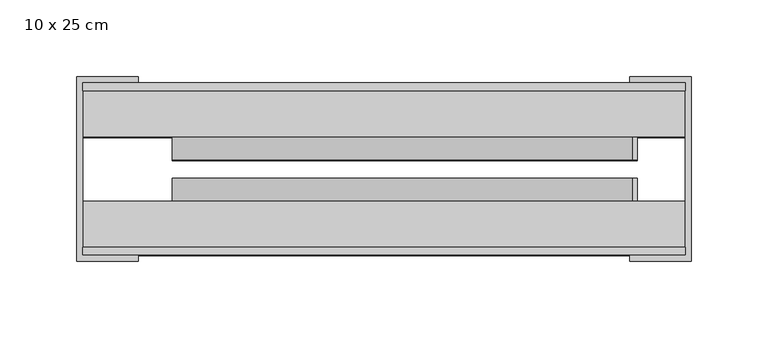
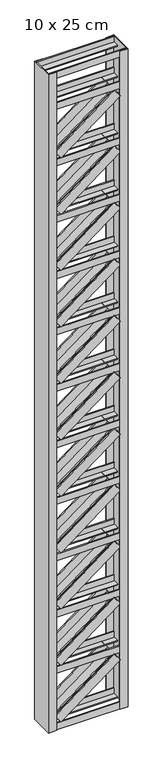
"""IFC4 building model written with IfcOpenShell, lengths in millimetres: beam geometry, AÇO - PILAR STEEL FRAME : 10 x 25 cm."""

from ifc_helpers import new_model, si_unit, frame, origin, origin_with_axes, place, context, project, spatial, polyline, outline, extrude, source, transform, mapped, element, save


def beam_10_x_25_cm_9de69e2e(model_context):
    return source(origin(), model_context, "Body", "SweptSolid", [
        extrude(outline(polyline([(-56.0, 25.0), (-6.0, 25.0), (-6.0, 20.0), (-51.0, 20.0), (-51.0, -25.0), (-56.0, -25.0), (-56.0, 25.0)])), frame((-150.0, 0.0, 3055.0), z_axis=(0.8000000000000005, 0.0, 0.5999999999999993), x_axis=(0.0, -1.0, 0.0)), (0.0, 0.0, 1.0), 375.0),
        extrude(outline(polyline([(56.0, 25.0), (56.0, -25.0), (51.0, -25.0), (51.0, 20.0), (6.0, 20.0), (6.0, 25.0), (56.0, 25.0)])), frame((-150.0, 0.0, 3055.0), z_axis=(0.8000000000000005, 0.0, 0.5999999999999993), x_axis=(0.0, -1.0, 0.0)), (0.0, 0.0, 1.0), 375.0),
        extrude(outline(polyline([(-56.0, 25.0), (-6.0, 25.0), (-6.0, 20.0), (-51.0, 20.0), (-51.0, -25.0), (-56.0, -25.0), (-56.0, 25.0)])), frame((-150.0, 0.0, 2755.0), z_axis=(0.8000000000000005, 0.0, 0.5999999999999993), x_axis=(0.0, -1.0, 0.0)), (0.0, 0.0, 1.0), 375.0),
        extrude(outline(polyline([(56.0, 25.0), (56.0, -25.0), (51.0, -25.0), (51.0, 20.0), (6.0, 20.0), (6.0, 25.0), (56.0, 25.0)])), frame((-150.0, 0.0, 2755.0), z_axis=(0.8000000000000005, 0.0, 0.5999999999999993), x_axis=(0.0, -1.0, 0.0)), (0.0, 0.0, 1.0), 375.0),
        extrude(outline(polyline([(-56.0, 25.0), (-6.0, 25.0), (-6.0, 20.0), (-51.0, 20.0), (-51.0, -25.0), (-56.0, -25.0), (-56.0, 25.0)])), frame((-150.0, 0.0, 2455.0), z_axis=(0.8000000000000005, 0.0, 0.5999999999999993), x_axis=(0.0, -1.0, 0.0)), (0.0, 0.0, 1.0), 375.0),
        extrude(outline(polyline([(56.0, 25.0), (56.0, -25.0), (51.0, -25.0), (51.0, 20.0), (6.0, 20.0), (6.0, 25.0), (56.0, 25.0)])), frame((-150.0, 0.0, 2455.0), z_axis=(0.8000000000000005, 0.0, 0.5999999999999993), x_axis=(0.0, -1.0, 0.0)), (0.0, 0.0, 1.0), 375.0),
        extrude(outline(polyline([(-56.0, 25.0), (-6.0, 25.0), (-6.0, 20.0), (-51.0, 20.0), (-51.0, -25.0), (-56.0, -25.0), (-56.0, 25.0)])), frame((-150.0, 0.0, 2155.0), z_axis=(0.8000000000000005, 0.0, 0.5999999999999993), x_axis=(0.0, -1.0, 0.0)), (0.0, 0.0, 1.0), 375.0),
        extrude(outline(polyline([(56.0, 25.0), (56.0, -25.0), (51.0, -25.0), (51.0, 20.0), (6.0, 20.0), (6.0, 25.0), (56.0, 25.0)])), frame((-150.0, 0.0, 2155.0), z_axis=(0.8000000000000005, 0.0, 0.5999999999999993), x_axis=(0.0, -1.0, 0.0)), (0.0, 0.0, 1.0), 375.0),
        extrude(outline(polyline([(-56.0, 25.0), (-6.0, 25.0), (-6.0, 20.0), (-51.0, 20.0), (-51.0, -25.0), (-56.0, -25.0), (-56.0, 25.0)])), frame((-150.0, 0.0, 1855.0), z_axis=(0.8000000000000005, 0.0, 0.5999999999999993), x_axis=(0.0, -1.0, 0.0)), (0.0, 0.0, 1.0), 375.0),
        extrude(outline(polyline([(56.0, 25.0), (56.0, -25.0), (51.0, -25.0), (51.0, 20.0), (6.0, 20.0), (6.0, 25.0), (56.0, 25.0)])), frame((-150.0, 0.0, 1855.0), z_axis=(0.8000000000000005, 0.0, 0.5999999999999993), x_axis=(0.0, -1.0, 0.0)), (0.0, 0.0, 1.0), 375.0),
        extrude(outline(polyline([(-56.0, 25.0), (-6.0, 25.0), (-6.0, 20.0), (-51.0, 20.0), (-51.0, -25.0), (-56.0, -25.0), (-56.0, 25.0)])), frame((-150.0, 0.0, 1555.0), z_axis=(0.8000000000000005, 0.0, 0.5999999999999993), x_axis=(0.0, -1.0, 0.0)), (0.0, 0.0, 1.0), 375.0),
        extrude(outline(polyline([(56.0, 25.0), (56.0, -25.0), (51.0, -25.0), (51.0, 20.0), (6.0, 20.0), (6.0, 25.0), (56.0, 25.0)])), frame((-150.0, 0.0, 1555.0), z_axis=(0.8000000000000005, 0.0, 0.5999999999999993), x_axis=(0.0, -1.0, 0.0)), (0.0, 0.0, 1.0), 375.0),
        extrude(outline(polyline([(-56.0, 25.0), (-6.0, 25.0), (-6.0, 20.0), (-51.0, 20.0), (-51.0, -25.0), (-56.0, -25.0), (-56.0, 25.0)])), frame((-150.0, 0.0, 1255.0), z_axis=(0.8000000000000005, 0.0, 0.5999999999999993), x_axis=(0.0, -1.0, 0.0)), (0.0, 0.0, 1.0), 375.0),
        extrude(outline(polyline([(56.0, 25.0), (56.0, -25.0), (51.0, -25.0), (51.0, 20.0), (6.0, 20.0), (6.0, 25.0), (56.0, 25.0)])), frame((-150.0, 0.0, 1255.0), z_axis=(0.8000000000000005, 0.0, 0.5999999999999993), x_axis=(0.0, -1.0, 0.0)), (0.0, 0.0, 1.0), 375.0),
        extrude(outline(polyline([(-56.0, 25.0), (-6.0, 25.0), (-6.0, 20.0), (-51.0, 20.0), (-51.0, -25.0), (-56.0, -25.0), (-56.0, 25.0)])), frame((-150.0, 0.0, 955.0), z_axis=(0.8000000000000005, 0.0, 0.5999999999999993), x_axis=(0.0, -1.0, 0.0)), (0.0, 0.0, 1.0), 375.0),
        extrude(outline(polyline([(56.0, 25.0), (56.0, -25.0), (51.0, -25.0), (51.0, 20.0), (6.0, 20.0), (6.0, 25.0), (56.0, 25.0)])), frame((-150.0, 0.0, 955.0), z_axis=(0.8000000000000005, 0.0, 0.5999999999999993), x_axis=(0.0, -1.0, 0.0)), (0.0, 0.0, 1.0), 375.0),
        extrude(outline(polyline([(-56.0, 25.0), (-6.0, 25.0), (-6.0, 20.0), (-51.0, 20.0), (-51.0, -25.0), (-56.0, -25.0), (-56.0, 25.0)])), frame((-150.0, 0.0, 655.0), z_axis=(0.8000000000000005, 0.0, 0.5999999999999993), x_axis=(0.0, -1.0, 0.0)), (0.0, 0.0, 1.0), 375.0),
        extrude(outline(polyline([(56.0, 25.0), (56.0, -25.0), (51.0, -25.0), (51.0, 20.0), (6.0, 20.0), (6.0, 25.0), (56.0, 25.0)])), frame((-150.0, 0.0, 655.0), z_axis=(0.8000000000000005, 0.0, 0.5999999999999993), x_axis=(0.0, -1.0, 0.0)), (0.0, 0.0, 1.0), 375.0),
        extrude(outline(polyline([(-56.0, 25.0), (-6.0, 25.0), (-6.0, 20.0), (-51.0, 20.0), (-51.0, -25.0), (-56.0, -25.0), (-56.0, 25.0)])), frame((-150.0, 0.0, 355.0), z_axis=(0.8000000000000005, 0.0, 0.5999999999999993), x_axis=(0.0, -1.0, 0.0)), (0.0, 0.0, 1.0), 375.0),
        extrude(outline(polyline([(56.0, 25.0), (56.0, -25.0), (51.0, -25.0), (51.0, 20.0), (6.0, 20.0), (6.0, 25.0), (56.0, 25.0)])), frame((-150.0, 0.0, 355.0), z_axis=(0.8000000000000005, 0.0, 0.5999999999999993), x_axis=(0.0, -1.0, 0.0)), (0.0, 0.0, 1.0), 375.0),
        extrude(outline(polyline([(-56.0, 25.0), (-6.0, 25.0), (-6.0, 20.0), (-51.0, 20.0), (-51.0, -25.0), (-56.0, -25.0), (-56.0, 25.0)])), frame((-150.0, 0.0, 55.0), z_axis=(0.8000000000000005, 0.0, 0.5999999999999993), x_axis=(0.0, -1.0, 0.0)), (0.0, 0.0, 1.0), 375.0),
        extrude(outline(polyline([(56.0, 25.0), (56.0, -25.0), (51.0, -25.0), (51.0, 20.0), (6.0, 20.0), (6.0, 25.0), (56.0, 25.0)])), frame((-150.0, 0.0, 55.0), z_axis=(0.8000000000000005, 0.0, 0.5999999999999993), x_axis=(0.0, -1.0, 0.0)), (0.0, 0.0, 1.0), 375.0),
        extrude(outline(polyline([(56.0, 3300.0), (21.0, 3300.0), (21.0, 3305.0), (51.0, 3305.0), (51.0, 3335.0), (56.0, 3335.0), (56.0, 3300.0)])), frame((-196.0, 0.0, 0.0), z_axis=(1.0, 0.0, 0.0), x_axis=(0.0, 1.0, 0.0)), (0.0, 0.0, 1.0), 392.0),
        extrude(outline(polyline([(-56.0, 3300.0), (-56.0, 3335.0), (-51.0, 3335.0), (-51.0, 3305.0), (-21.0, 3305.0), (-21.0, 3300.0), (-56.0, 3300.0)])), frame((-196.0, 0.0, 0.0), z_axis=(1.0, 0.0, 0.0), x_axis=(0.0, 1.0, 0.0)), (0.0, 0.0, 1.0), 392.0),
        extrude(outline(polyline([(56.0, 3000.0), (21.0, 3000.0), (21.0, 3005.0), (51.0, 3005.0), (51.0, 3035.0), (56.0, 3035.0), (56.0, 3000.0)])), frame((-196.0, 0.0, 0.0), z_axis=(1.0, 0.0, 0.0), x_axis=(0.0, 1.0, 0.0)), (0.0, 0.0, 1.0), 392.0),
        extrude(outline(polyline([(-56.0, 3000.0), (-56.0, 3035.0), (-51.0, 3035.0), (-51.0, 3005.0), (-21.0, 3005.0), (-21.0, 3000.0), (-56.0, 3000.0)])), frame((-196.0, 0.0, 0.0), z_axis=(1.0, 0.0, 0.0), x_axis=(0.0, 1.0, 0.0)), (0.0, 0.0, 1.0), 392.0),
        extrude(outline(polyline([(56.0, 2700.0), (21.0, 2700.0), (21.0, 2705.0), (51.0, 2705.0), (51.0, 2735.0), (56.0, 2735.0), (56.0, 2700.0)])), frame((-196.0, 0.0, 0.0), z_axis=(1.0, 0.0, 0.0), x_axis=(0.0, 1.0, 0.0)), (0.0, 0.0, 1.0), 392.0),
        extrude(outline(polyline([(-56.0, 2700.0), (-56.0, 2735.0), (-51.0, 2735.0), (-51.0, 2705.0), (-21.0, 2705.0), (-21.0, 2700.0), (-56.0, 2700.0)])), frame((-196.0, 0.0, 0.0), z_axis=(1.0, 0.0, 0.0), x_axis=(0.0, 1.0, 0.0)), (0.0, 0.0, 1.0), 392.0),
        extrude(outline(polyline([(56.0, 2400.0), (21.0, 2400.0), (21.0, 2405.0), (51.0, 2405.0), (51.0, 2435.0), (56.0, 2435.0), (56.0, 2400.0)])), frame((-196.0, 0.0, 0.0), z_axis=(1.0, 0.0, 0.0), x_axis=(0.0, 1.0, 0.0)), (0.0, 0.0, 1.0), 392.0),
        extrude(outline(polyline([(-56.0, 2400.0), (-56.0, 2435.0), (-51.0, 2435.0), (-51.0, 2405.0), (-21.0, 2405.0), (-21.0, 2400.0), (-56.0, 2400.0)])), frame((-196.0, 0.0, 0.0), z_axis=(1.0, 0.0, 0.0), x_axis=(0.0, 1.0, 0.0)), (0.0, 0.0, 1.0), 392.0),
        extrude(outline(polyline([(56.0, 2100.0), (21.0, 2100.0), (21.0, 2105.0), (51.0, 2105.0), (51.0, 2135.0), (56.0, 2135.0), (56.0, 2100.0)])), frame((-196.0, 0.0, 0.0), z_axis=(1.0, 0.0, 0.0), x_axis=(0.0, 1.0, 0.0)), (0.0, 0.0, 1.0), 392.0),
        extrude(outline(polyline([(-56.0, 2100.0), (-56.0, 2135.0), (-51.0, 2135.0), (-51.0, 2105.0), (-21.0, 2105.0), (-21.0, 2100.0), (-56.0, 2100.0)])), frame((-196.0, 0.0, 0.0), z_axis=(1.0, 0.0, 0.0), x_axis=(0.0, 1.0, 0.0)), (0.0, 0.0, 1.0), 392.0),
        extrude(outline(polyline([(56.0, 1800.0), (21.0, 1800.0), (21.0, 1805.0), (51.0, 1805.0), (51.0, 1835.0), (56.0, 1835.0), (56.0, 1800.0)])), frame((-196.0, 0.0, 0.0), z_axis=(1.0, 0.0, 0.0), x_axis=(0.0, 1.0, 0.0)), (0.0, 0.0, 1.0), 392.0),
        extrude(outline(polyline([(-56.0, 1800.0), (-56.0, 1835.0), (-51.0, 1835.0), (-51.0, 1805.0), (-21.0, 1805.0), (-21.0, 1800.0), (-56.0, 1800.0)])), frame((-196.0, 0.0, 0.0), z_axis=(1.0, 0.0, 0.0), x_axis=(0.0, 1.0, 0.0)), (0.0, 0.0, 1.0), 392.0),
        extrude(outline(polyline([(56.0, 1500.0), (21.0, 1500.0), (21.0, 1505.0), (51.0, 1505.0), (51.0, 1535.0), (56.0, 1535.0), (56.0, 1500.0)])), frame((-196.0, 0.0, 0.0), z_axis=(1.0, 0.0, 0.0), x_axis=(0.0, 1.0, 0.0)), (0.0, 0.0, 1.0), 392.0),
        extrude(outline(polyline([(-56.0, 1500.0), (-56.0, 1535.0), (-51.0, 1535.0), (-51.0, 1505.0), (-21.0, 1505.0), (-21.0, 1500.0), (-56.0, 1500.0)])), frame((-196.0, 0.0, 0.0), z_axis=(1.0, 0.0, 0.0), x_axis=(0.0, 1.0, 0.0)), (0.0, 0.0, 1.0), 392.0),
        extrude(outline(polyline([(56.0, 1200.0), (21.0, 1200.0), (21.0, 1205.0), (51.0, 1205.0), (51.0, 1235.0), (56.0, 1235.0), (56.0, 1200.0)])), frame((-196.0, 0.0, 0.0), z_axis=(1.0, 0.0, 0.0), x_axis=(0.0, 1.0, 0.0)), (0.0, 0.0, 1.0), 392.0),
        extrude(outline(polyline([(-56.0, 1200.0), (-56.0, 1235.0), (-51.0, 1235.0), (-51.0, 1205.0), (-21.0, 1205.0), (-21.0, 1200.0), (-56.0, 1200.0)])), frame((-196.0, 0.0, 0.0), z_axis=(1.0, 0.0, 0.0), x_axis=(0.0, 1.0, 0.0)), (0.0, 0.0, 1.0), 392.0),
        extrude(outline(polyline([(56.0, 900.0), (21.0, 900.0), (21.0, 905.0), (51.0, 905.0), (51.0, 935.0), (56.0, 935.0), (56.0, 900.0)])), frame((-196.0, 0.0, 0.0), z_axis=(1.0, 0.0, 0.0), x_axis=(0.0, 1.0, 0.0)), (0.0, 0.0, 1.0), 392.0),
        extrude(outline(polyline([(-56.0, 900.0), (-56.0, 935.0), (-51.0, 935.0), (-51.0, 905.0), (-21.0, 905.0), (-21.0, 900.0), (-56.0, 900.0)])), frame((-196.0, 0.0, 0.0), z_axis=(1.0, 0.0, 0.0), x_axis=(0.0, 1.0, 0.0)), (0.0, 0.0, 1.0), 392.0),
        extrude(outline(polyline([(56.0, 600.0), (21.0, 600.0), (21.0, 605.0), (51.0, 605.0), (51.0, 635.0), (56.0, 635.0), (56.0, 600.0)])), frame((-196.0, 0.0, 0.0), z_axis=(1.0, 0.0, 0.0), x_axis=(0.0, 1.0, 0.0)), (0.0, 0.0, 1.0), 392.0),
        extrude(outline(polyline([(-56.0, 600.0), (-56.0, 635.0), (-51.0, 635.0), (-51.0, 605.0), (-21.0, 605.0), (-21.0, 600.0), (-56.0, 600.0)])), frame((-196.0, 0.0, 0.0), z_axis=(1.0, 0.0, 0.0), x_axis=(0.0, 1.0, 0.0)), (0.0, 0.0, 1.0), 392.0),
        extrude(outline(polyline([(56.0, 300.0), (21.0, 300.0), (21.0, 305.0), (51.0, 305.0), (51.0, 335.0), (56.0, 335.0), (56.0, 300.0)])), frame((-196.0, 0.0, 0.0), z_axis=(1.0, 0.0, 0.0), x_axis=(0.0, 1.0, 0.0)), (0.0, 0.0, 1.0), 392.0),
        extrude(outline(polyline([(-56.0, 300.0), (-56.0, 335.0), (-51.0, 335.0), (-51.0, 305.0), (-21.0, 305.0), (-21.0, 300.0), (-56.0, 300.0)])), frame((-196.0, 0.0, 0.0), z_axis=(1.0, 0.0, 0.0), x_axis=(0.0, 1.0, 0.0)), (0.0, 0.0, 1.0), 392.0),
        extrude(outline(polyline([(56.0, 0.0), (21.0, 0.0), (21.0, 5.0), (51.0, 5.0), (51.0, 35.0), (56.0, 35.0), (56.0, 0.0)])), frame((-196.0, 0.0, 0.0), z_axis=(1.0, 0.0, 0.0), x_axis=(0.0, 1.0, 0.0)), (0.0, 0.0, 1.0), 392.0),
        extrude(outline(polyline([(-56.0, 0.0), (-56.0, 35.0), (-51.0, 35.0), (-51.0, 5.0), (-21.0, 5.0), (-21.0, 0.0), (-56.0, 0.0)])), frame((-196.0, 0.0, 0.0), z_axis=(1.0, 0.0, 0.0), x_axis=(0.0, 1.0, 0.0)), (0.0, 0.0, 1.0), 392.0),
        extrude(outline(polyline([(56.0, 3465.0), (21.0, 3465.0), (21.0, 3470.0), (51.0, 3470.0), (51.0, 3500.0), (56.0, 3500.0), (56.0, 3465.0)])), frame((-196.0, 0.0, 0.0), z_axis=(1.0, 0.0, 0.0), x_axis=(0.0, 1.0, 0.0)), (0.0, 0.0, 1.0), 392.0),
        extrude(outline(polyline([(-56.0, 3465.0), (-56.0, 3500.0), (-51.0, 3500.0), (-51.0, 3470.0), (-21.0, 3470.0), (-21.0, 3465.0), (-56.0, 3465.0)])), frame((-196.0, 0.0, 0.0), z_axis=(1.0, 0.0, 0.0), x_axis=(0.0, 1.0, 0.0)), (0.0, 0.0, 1.0), 392.0),
        extrude(outline(polyline([(200.0, -60.0), (160.0, -60.0), (160.0, -56.0), (196.0, -56.0), (196.0, 56.0), (160.0, 56.0), (160.0, 60.0), (200.0, 60.0), (200.0, -60.0)])), origin_with_axes(), (0.0, 0.0, 1.0), 3500.0),
        extrude(outline(polyline([(-200.0, 60.0), (-160.0, 60.0), (-160.0, 56.0), (-196.0, 56.0), (-196.0, -56.0), (-160.0, -56.0), (-160.0, -60.0), (-200.0, -60.0), (-200.0, 60.0)])), origin_with_axes(), (0.0, 0.0, 1.0), 3500.0),
    ])


if __name__ == "__main__":
    model = new_model("IFC4")
    model_context = context("Model", 3, world=origin())
    ifc_project = project(units=[si_unit("LENGTHUNIT", "METRE", prefix="MILLI")], contexts=[model_context])
    site = spatial("IfcSite", under=ifc_project)
    building = spatial("IfcBuilding", under=site)
    placement = place(None, origin())
    beam_10_x_25_cm_shape = beam_10_x_25_cm_9de69e2e(model_context)
    element("IfcBeam", 1, ObjectType="AÇO - PILAR STEEL FRAME : 10 x 25 cm", at=placement, inside=building, context=model_context, shape_type="MappedRepresentation", body=[
        mapped(beam_10_x_25_cm_shape, transform((0.0, 0.0, 0.0), x_axis=(1.0, 0.0, 0.0), y_axis=(0.0, 1.0, 0.0), z_axis=(0.0, 0.0, 1.0))),
    ])
    save(model, "model.ifc")
